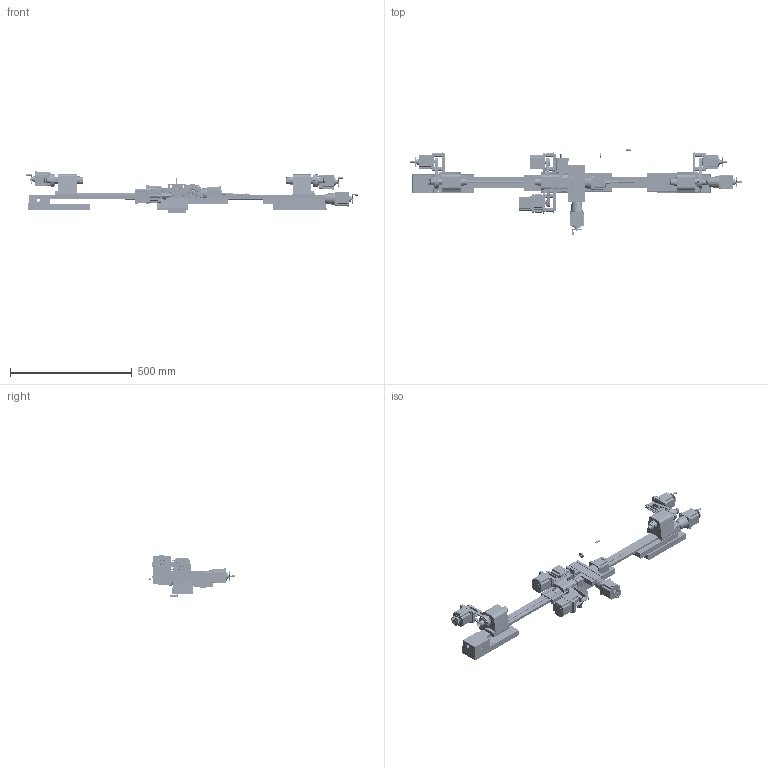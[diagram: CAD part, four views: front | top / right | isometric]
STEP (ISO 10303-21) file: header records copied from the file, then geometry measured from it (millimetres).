
FILE_DESCRIPTION( ( 'Unknown' ), '1' );
FILE_NAME( 'C:/Users/dragon/Desktop/50 ' extra long lathe/ 48 in lathe with with 2 head stock.stp', 'Unknown', ( 'Unknown' ), ( 'Unknown' ), 'XStep 1.0', 'Unknown', ' ' );
FILE_SCHEMA( ( 'CONFIG_CONTROL_DESIGN' ) );
Length unit declared in the file: millimetre
Products named in the file (78): 3 collect head stock w 65011 cog. 2asm;  6519 w belt _motor; 67036assamble cnc;  6519 w belt _motor 2; stepper motor; 40050HANDWHEEL; Assem1; 3 collect head stock w 65011 cog; stepper motor assbley w belt; steppermotor assem; cog belt 2; 65014; 65011 ind. headstock no detail 2; 65016; 4010-washer; 40233; 40160-perloadnut; 40670; 40660; gibcenterscrew; 40690; small cog pully; 67103; 43100; 40020; stepper motor top; stepper motor mid; stepper motorbase; 50170; 67036; 40890; 40910; 67120 bearing; 67102; 65011 ind. headstock no detail; 4005 handwheel 1.58; 42060; 45013; 44121 side b; 44200 48in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
Bounding box: 1365.6 x 354.16 x 173.07 mm (x, y, z)
Volume: 11654527.2 mm3; surface area: 2693001.4 mm2
Topology: 289 solids, 289 shells, 25786 faces, 66561 edges, 41848 vertices
Faces by surface type: plane 13745, cylinder 8034, cone 3261, bspline 436, extrusion 270, torus 40
Full cylindrical faces by diameter (mm): 2.057 x16, 3.099 x26, 3.307 x86, 3.429 x6, 3.912 x6, 3.967 x146, 4.013 x10, 4.039 x8, 4.775 x12, 4.826 x42, 4.877 x16, 4.976 x3, 4.978 x4, 5.055 x26, 5.08 x4, 5.105 x4, 5.41 x3, 5.537 x8, 5.542 x2, 6.329 x4, 6.35 x75, 7.163 x10, 7.62 x8, 7.925 x4, 7.95 x3, 9.529 x2, 9.833 x7, 10.046 x7, 11.811 x14, 12.446 x14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
Entity records: 283695 total; most frequent: CARTESIAN_POINT 152151, ORIENTED_EDGE 27348, DIRECTION 25141, EDGE_CURVE 13674, VERTEX_POINT 8824, AXIS2_PLACEMENT_3D 8457, VECTOR 8227, LINE 8182
